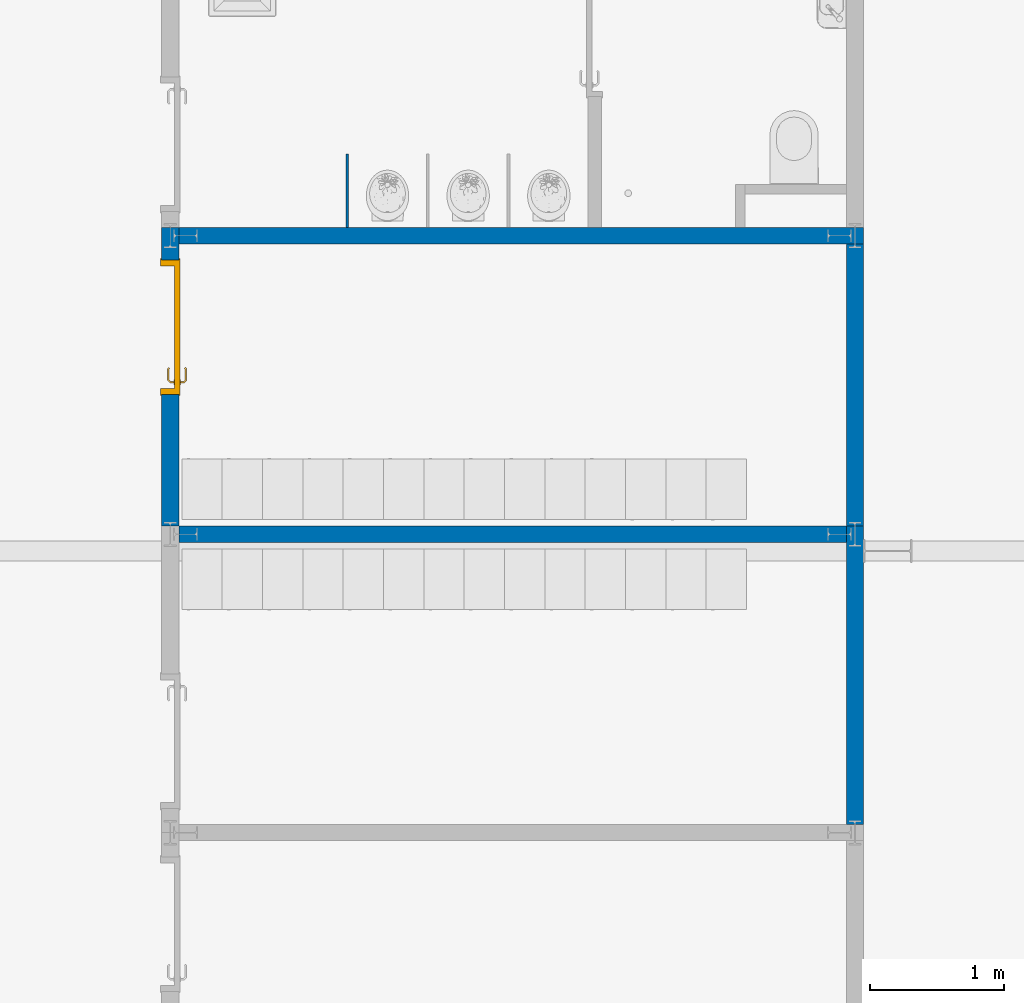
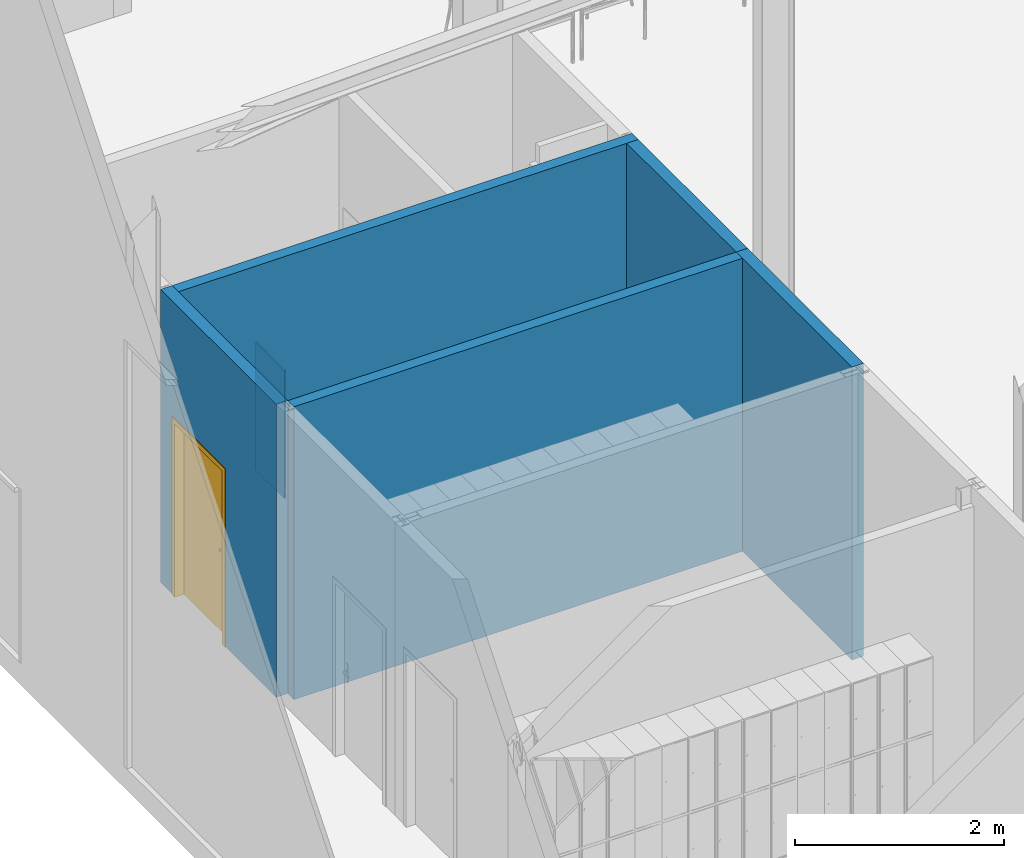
# One storey, part 50 of 137: 6 walls, 1 door, 1 opening.
"""IFC2X3 building model written with IfcOpenShell, lengths in centimetres."""

from ifc_helpers import new_model, entity, si_unit, converted_unit, derived_unit, direction, frame, frame_2d, origin, place, context, subcontext, project, spatial, rectangle, extrude, faceted_brep, source, transform, mapped, material, material_list, layer, layer_set, layer_usage, type_object, type_shapes, element, fill, save


model = new_model("IFC2X3")

# Units and contexts
model_context = context("Model", 3, precision=0.001, world=origin(), true_north=direction((6.12303176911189e-17, 1.0)))
body_context = subcontext(model_context, "Body", "Model", "MODEL_VIEW")
ifc_project = project(units=[si_unit("LENGTHUNIT", "METRE", prefix="CENTI"), si_unit("AREAUNIT", "SQUARE_METRE"), si_unit("VOLUMEUNIT", "CUBIC_METRE"), converted_unit("PLANEANGLEUNIT", "DEGREE", entity("IfcRatioMeasure", 0.0174532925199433), si_unit("PLANEANGLEUNIT", "RADIAN"), dimensions=[0, 0, 0, 0, 0, 0, 0]), si_unit("MASSUNIT", "GRAM", prefix="KILO"), si_unit("TIMEUNIT", "SECOND"), si_unit("FREQUENCYUNIT", "HERTZ"), si_unit("THERMODYNAMICTEMPERATUREUNIT", "DEGREE_CELSIUS"), derived_unit("THERMALTRANSMITTANCEUNIT", [(si_unit("MASSUNIT", "GRAM", prefix="KILO"), 1), (si_unit("THERMODYNAMICTEMPERATUREUNIT", "KELVIN"), -1), (si_unit("TIMEUNIT", "SECOND"), -3)]), derived_unit("VOLUMETRICFLOWRATEUNIT", [(si_unit("LENGTHUNIT", "METRE"), 3), (si_unit("TIMEUNIT", "SECOND"), -1)]), si_unit("ELECTRICCURRENTUNIT", "AMPERE"), si_unit("ELECTRICVOLTAGEUNIT", "VOLT"), si_unit("POWERUNIT", "WATT"), si_unit("FORCEUNIT", "NEWTON", prefix="KILO"), si_unit("ILLUMINANCEUNIT", "LUX"), si_unit("LUMINOUSFLUXUNIT", "LUMEN"), si_unit("LUMINOUSINTENSITYUNIT", "CANDELA"), derived_unit("USERDEFINED", [(si_unit("MASSUNIT", "GRAM", prefix="KILO"), -1), (si_unit("LENGTHUNIT", "METRE"), -2), (si_unit("TIMEUNIT", "SECOND"), 3), (si_unit("LUMINOUSFLUXUNIT", "LUMEN"), 1)]), derived_unit("LINEARVELOCITYUNIT", [(si_unit("LENGTHUNIT", "METRE"), 1), (si_unit("TIMEUNIT", "SECOND"), -1)]), si_unit("PRESSUREUNIT", "PASCAL"), derived_unit("USERDEFINED", [(si_unit("LENGTHUNIT", "METRE"), -2), (si_unit("MASSUNIT", "GRAM", prefix="KILO"), 1), (si_unit("TIMEUNIT", "SECOND"), -2)])], contexts=[model_context])

# Site, building, storey
site_placement = place(None, frame((8.62739174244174, -249.285249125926, 0.0)))
site = spatial("IfcSite", under=ifc_project, at=site_placement, Name="Default", CompositionType="ELEMENT")
building_placement = place(site_placement, origin())
building = spatial("IfcBuilding", under=site, at=building_placement, CompositionType="ELEMENT")
storey_placement = place(building_placement, origin())
storey = spatial("IfcBuildingStorey", under=building, at=storey_placement, Name="RDC", CompositionType="ELEMENT", Elevation=-8.82465566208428e-11)

# Wall, opening, door
ifc_material_1 = material(Name="Tôle/Doublage")
ifc_layer_1 = layer(ifc_material_1, 2.0)
ifc_material_2 = material(Name="Laine minérale")
ifc_layer_2 = layer(ifc_material_2, 9.5)
ifc_material_3 = material(Name="Plâtre_MU")
ifc_layer_3 = layer(ifc_material_3, 1.25)
ifc_layer_set_1 = layer_set([ifc_layer_1, ifc_layer_2, ifc_layer_3], Name="Mur de base:PLA 1.25 + ISO 9.5 + MET 4")
ifc_layer_usage_1 = layer_usage(ifc_layer_set_1, "AXIS2", "NEGATIVE", 6.375)
wall_type_1 = type_object("IfcWallType", Name="Mur de base:PLA 1.25 + ISO 9.5 + MET 4", PredefinedType="STANDARD", material=ifc_layer_set_1)
wall_1_placement = place(storey_placement, frame((1030.27982780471, 2380.48020806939, 0.0), z_axis=(0.0, 0.0, 1.0), x_axis=(0.0, 1.0, 0.0)))
wall_1 = element("IfcWallStandardCase", 1, at=wall_1_placement, inside=storey, type_object=wall_type_1, material=ifc_layer_usage_1, Name="Mur de base:PLA 1.25 + ISO 9.5 + MET 4", ObjectType="Mur de base:PLA 1.25 + ISO 9.5 + MET 4", context=body_context, shape_type="SweptSolid", body=[
    extrude(rectangle(XDim=221.999999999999, YDim=12.7500000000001, at=frame_2d((110.999999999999, 2.22044604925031e-15), x_axis=(-1.0, 0.0))), origin(), (0.0, 0.0, 1.0), 343.000000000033),
])
opening_placement = place(wall_1_placement, frame((198.0, 6.37500000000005, 0.0)))
opening = element("IfcOpeningElement", 2, at=opening_placement, cuts=wall_1, Name="Simple(R)_bois_mu:93 x 204 cm:1", ObjectType="Opening", context=body_context, shape_type="SweptSolid", body=[
    extrude(rectangle(XDim=207.499999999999, YDim=99.9999999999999, at=frame_2d((103.749999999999, 50.0), x_axis=(1.0, 0.0))), frame((0.0, 0.0, 0.0), z_axis=(0.0, -1.0, 0.0), x_axis=(0.0, 0.0, 1.0)), (0.0, 0.0, 1.0), 12.75),
])
ifc_material_4 = material(Name="Porte - Poignée")
ifc_material_5 = material(Name="Porte - Cadre")
ifc_material_6 = material(Name="Porte - Panneau")
ifc_material_list_1 = material_list([ifc_material_4, ifc_material_5, ifc_material_6])
ifc_material_list_2 = material_list([ifc_material_4, ifc_material_5, ifc_material_6])
door_style = type_object("IfcDoorStyle", Name="93 x 204 cm", ConstructionType="NOTDEFINED", OperationType="SINGLE_SWING_RIGHT", ParameterTakesPrecedence=False, Sizeable=False, material=ifc_material_list_2)
shared_shape = source(origin(), body_context, "Body", "Brep", [
    faceted_brep([(8.79747013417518, 3.69999999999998, 100.778044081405), (8.3999999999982, 3.69999999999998, 100.699999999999), (8.39999999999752, 3.69999999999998, 99.2999999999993), (8.79747013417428, 3.69999999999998, 99.2219559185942), (9.20252986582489, 3.69999999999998, 99.2219559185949), (9.60000000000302, 3.69999999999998, 99.3000000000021), (9.60000000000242, 3.69999999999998, 100.699999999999), (9.2025298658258, 3.69999999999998, 100.778044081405), (9.60000000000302, 5.94852045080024, 99.3000000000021), (9.60000000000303, 5.94852045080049, 100.699999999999), (9.20252986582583, 6.11315797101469, 100.778044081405), (10.5838906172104, 7.49451872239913, 100.778044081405), (10.4161093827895, 7.89957845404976, 100.778044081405), (8.79747013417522, 6.2809392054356, 100.778044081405), (19.5684749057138, 6.84673156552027, 100.778044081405), (19.8548953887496, 7.13315204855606, 100.778044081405), (19.0884689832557, 7.89957845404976, 100.778044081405), (18.9206877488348, 7.49451872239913, 100.778044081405), (8.39999999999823, 6.44557672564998, 100.699999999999), (8.3999999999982, 6.44557672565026, 99.2999999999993), (8.79747013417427, 6.28093920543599, 99.2219559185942), (10.4161093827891, 7.8995784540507, 99.2219559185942), (10.58389061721, 7.49451872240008, 99.2219559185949), (9.20252986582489, 6.11315797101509, 99.2219559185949), (19.8548953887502, 7.13315204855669, 99.2219559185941), (19.5684749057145, 6.84673156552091, 99.2219559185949), (18.9206877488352, 7.49451872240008, 99.2219559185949), (19.088468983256, 7.8995784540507, 99.2219559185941), (10.7485281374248, 7.09704858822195, 99.3000000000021), (10.748528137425, 7.09704858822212, 100.699999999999), (10.2514718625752, 8.29704858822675, 100.699999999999), (10.2514718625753, 8.29704858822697, 99.2999999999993), (14.7522904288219, 7.09704858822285, 99.3000000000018), (18.7560502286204, 7.09704858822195, 99.3000000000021), (18.7560502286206, 7.09704858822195, 100.699999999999), (14.7522891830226, 7.09704858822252, 100.699999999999), (14.7522891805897, 7.71249275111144, 100.787811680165), (19.25310650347, 8.29704858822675, 100.699999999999), (15.2600577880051, 8.29704858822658, 100.699999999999), (19.2531065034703, 8.29704858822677, 99.2999999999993), (14.2445206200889, 8.29704858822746, 99.2999999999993), (14.7522892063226, 7.71249274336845, 99.2121883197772), (19.2874210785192, 6.56567773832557, 99.3000000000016), (20.1359492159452, 7.41420587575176, 99.2999999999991), (20.135949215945, 7.4142058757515, 100.699999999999), (19.287421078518, 6.5656777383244, 100.699999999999)], [[[0, 1, 2, 3, 4, 5, 6, 7]], [[6, 5, 8, 9]], [[9, 10, 7, 6]], [[10, 11, 12, 13, 0, 7]], [[14, 15, 16, 17]], [[13, 18, 1, 0]], [[2, 1, 18, 19]], [[19, 20, 3, 2]], [[20, 21, 22, 23, 4, 3]], [[24, 25, 26, 27]], [[23, 8, 5, 4]], [[9, 8, 28, 29]], [[29, 11, 10, 9]], [[12, 30, 18, 13]], [[19, 18, 30, 31]], [[31, 21, 20, 19]], [[22, 28, 8, 23]], [[29, 28, 32, 33, 34, 35]], [[11, 35, 36]], [[16, 37, 38]], [[30, 12, 38]], [[38, 12, 36]], [[36, 35, 17]], [[17, 16, 36]], [[35, 11, 29]], [[34, 17, 35]], [[11, 36, 12]], [[38, 36, 16]], [[31, 30, 38, 37, 39, 40]], [[40, 41, 21]], [[41, 40, 27]], [[21, 31, 40]], [[39, 27, 40]], [[41, 32, 22]], [[22, 21, 41]], [[26, 32, 41]], [[28, 22, 32]], [[32, 26, 33]], [[26, 41, 27]], [[42, 25, 24, 43, 44, 15, 14, 45]], [[34, 33, 42, 45]], [[45, 14, 17, 34]], [[15, 44, 37, 16]], [[39, 37, 44, 43]], [[43, 24, 27, 39]], [[25, 42, 33, 26]]]),
    faceted_brep([(8.79747013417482, -1.30000000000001, 100.778044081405), (9.20252986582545, -1.30000000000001, 100.778044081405), (9.6000000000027, -1.30000000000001, 100.699999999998), (9.60000000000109, -1.30000000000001, 99.3000000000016), (9.20252986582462, -1.30000000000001, 99.2219559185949), (8.79747013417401, -1.30000000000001, 99.2219559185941), (8.39999999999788, -1.30000000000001, 99.2999999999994), (8.39999999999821, -1.30000000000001, 100.699999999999), (8.39999999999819, -4.06509507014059, 100.699999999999), (8.7974701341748, -3.90045754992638, 100.778044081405), (10.402358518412, -5.50534593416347, 100.778044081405), (10.5701397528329, -5.10028620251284, 100.778044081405), (9.20252986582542, -3.73267631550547, 100.778044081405), (19.852181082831, -4.73891952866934, 100.778044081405), (19.5657605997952, -4.4524990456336, 100.778044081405), (18.9179734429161, -5.10028620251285, 100.778044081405), (19.085754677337, -5.50534593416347, 100.778044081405), (9.60000000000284, -3.56803879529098, 100.699999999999), (9.6000000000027, -3.56803879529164, 99.3000000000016), (9.20252986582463, -3.7326763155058, 99.2219559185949), (10.5701397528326, -5.10028620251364, 99.2219559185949), (10.4023585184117, -5.50534593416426, 99.2219559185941), (8.79747013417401, -3.9004575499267, 99.2219559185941), (19.5657605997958, -4.45249904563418, 99.2219559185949), (19.8521810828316, -4.73891952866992, 99.2219559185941), (19.0857546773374, -5.50534593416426, 99.2219559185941), (18.9179734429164, -5.10028620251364, 99.2219559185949), (8.39999999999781, -4.06509507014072, 99.2999999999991), (10.2377209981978, -5.90281606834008, 100.699999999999), (10.7347772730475, -4.70281606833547, 100.699999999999), (10.7347772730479, -4.70281606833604, 99.3000000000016), (10.2377209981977, -5.90281606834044, 99.2999999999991), (14.2307697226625, -5.90281606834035, 100.699999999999), (14.7440566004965, -5.31828027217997, 100.787811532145), (19.2503921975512, -5.90281606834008, 100.699999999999), (14.7440565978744, -4.70281606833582, 100.699999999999), (18.7533359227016, -4.70281606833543, 100.699999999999), (18.7533359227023, -4.70281606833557, 99.3000000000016), (14.7440563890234, -4.70281606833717, 99.3000000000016), (14.744056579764, -5.31828027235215, 99.2121884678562), (19.2503921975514, -5.90281606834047, 99.2999999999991), (15.2573433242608, -5.90281606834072, 99.2999999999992), (19.2847067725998, -4.1714452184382, 100.699999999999), (20.1332349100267, -5.01997335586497, 100.699999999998), (20.1332349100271, -5.01997335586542, 99.2999999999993), (19.2847067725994, -4.17144521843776, 99.3000000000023)], [[[0, 1, 2, 3, 4, 5, 6, 7]], [[8, 9, 0, 7]], [[9, 10, 11, 12, 1, 0]], [[13, 14, 15, 16]], [[12, 17, 2, 1]], [[3, 2, 17, 18]], [[18, 19, 4, 3]], [[19, 20, 21, 22, 5, 4]], [[23, 24, 25, 26]], [[22, 27, 6, 5]], [[7, 6, 27, 8]], [[28, 10, 9, 8]], [[11, 29, 17, 12]], [[18, 17, 29, 30]], [[30, 20, 19, 18]], [[21, 31, 27, 22]], [[8, 27, 31, 28]], [[32, 33, 10]], [[33, 32, 16]], [[10, 28, 32]], [[34, 16, 32]], [[33, 35, 11]], [[11, 10, 33]], [[15, 35, 33]], [[29, 11, 35]], [[35, 15, 36]], [[15, 33, 16]], [[30, 29, 35, 36, 37, 38]], [[20, 38, 39]], [[25, 40, 41]], [[31, 21, 41]], [[41, 21, 39]], [[39, 38, 26]], [[26, 25, 39]], [[38, 20, 30]], [[37, 26, 38]], [[20, 39, 21]], [[41, 39, 25]], [[28, 31, 41, 40, 34, 32]], [[42, 14, 13, 43, 44, 24, 23, 45]], [[43, 13, 16, 34]], [[14, 42, 36, 15]], [[37, 36, 42, 45]], [[45, 23, 26, 37]], [[24, 44, 40, 25]], [[34, 40, 44, 43]]]),
    faceted_brep([(10.03527618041, 3.19999999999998, 86.6003983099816), (11.0, 3.19999999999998, 87.0), (11.0, 3.19999999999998, 108.0), (10.03527618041, 3.19999999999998, 108.399601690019), (9.0, 3.19999999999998, 108.535898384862), (7.96472381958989, 3.19999999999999, 108.399601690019), (7.0, 3.19999999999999, 108.0), (7.0, 3.19999999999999, 87.0), (7.96472381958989, 3.19999999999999, 86.6003983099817), (9.0, 3.19999999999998, 86.4641016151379), (10.03527618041, 3.69999999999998, 108.399601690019), (11.0, 3.69999999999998, 108.0), (11.0, 3.69999999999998, 87.0), (10.03527618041, 3.69999999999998, 86.6003983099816), (9.0, 3.69999999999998, 86.4641016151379), (7.96472381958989, 3.69999999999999, 86.6003983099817), (7.0, 3.69999999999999, 87.0), (7.0, 3.69999999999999, 108.0), (7.96472381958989, 3.69999999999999, 108.399601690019), (9.0, 3.69999999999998, 108.535898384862)], [[[0, 1, 2, 3, 4, 5, 6, 7, 8, 9]], [[10, 11, 12, 13, 14, 15, 16, 17, 18, 19]], [[11, 10, 3, 2]], [[3, 10, 19, 4]], [[19, 18, 5, 4]], [[18, 17, 6, 5]], [[7, 6, 17, 16]], [[16, 15, 8, 7]], [[8, 15, 14, 9]], [[14, 13, 0, 9]], [[13, 12, 1, 0]], [[2, 1, 12, 11]]]),
    faceted_brep([(10.03527618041, -1.30000000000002, 86.6003983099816), (11.0, -1.30000000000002, 87.0), (11.0, -1.30000000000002, 108.0), (10.03527618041, -1.30000000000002, 108.399601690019), (9.0, -1.30000000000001, 108.535898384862), (7.9647238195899, -1.30000000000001, 108.399601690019), (7.0, -1.30000000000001, 108.0), (7.0, -1.30000000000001, 87.0), (7.96472381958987, -1.30000000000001, 86.6003983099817), (9.0, -1.30000000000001, 86.4641016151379), (10.03527618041, -0.800000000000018, 108.399601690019), (11.0, -0.80000000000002, 108.0), (11.0, -0.80000000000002, 87.0), (10.03527618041, -0.800000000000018, 86.6003983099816), (9.0, -0.800000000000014, 86.4641016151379), (7.96472381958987, -0.800000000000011, 86.6003983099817), (7.0, -0.800000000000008, 87.0), (7.0, -0.800000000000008, 108.0), (7.9647238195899, -0.800000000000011, 108.399601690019), (9.0, -0.800000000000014, 108.535898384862)], [[[0, 1, 2, 3, 4, 5, 6, 7, 8, 9]], [[10, 11, 12, 13, 14, 15, 16, 17, 18, 19]], [[16, 15, 8, 7]], [[8, 15, 14, 9]], [[14, 13, 0, 9]], [[13, 12, 1, 0]], [[2, 1, 12, 11]], [[11, 10, 3, 2]], [[3, 10, 19, 4]], [[19, 18, 5, 4]], [[18, 17, 6, 5]], [[7, 6, 17, 16]]]),
    faceted_brep([(0.0, 0.0, 0.0), (0.0, 12.750000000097, 0.0), (-1.0, 12.750000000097, 0.0), (-1.0, 13.5500000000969, 0.0), (4.49999999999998, 13.5500000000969, 0.0), (4.49999999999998, 3.2, 0.0), (3.49999999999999, 3.2, 0.0), (3.49999999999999, -0.799999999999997, 0.0), (-1.0, -0.799999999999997, 0.0), (-1.0, 0.0, 0.0), (0.0, 0.0, 207.499999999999), (0.0, 12.750000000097, 207.499999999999), (100.0, 12.750000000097, 207.499999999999), (100.0, 12.750000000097, 0.0), (101.0, 12.750000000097, 0.0), (101.0, 12.750000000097, 208.499999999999), (-1.0, 12.750000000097, 208.499999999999), (-1.0, 13.5500000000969, 208.499999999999), (101.0, 13.5500000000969, 208.499999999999), (101.0, 13.5500000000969, 0.0), (95.5, 13.5500000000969, 0.0), (95.5, 13.5500000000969, 203.0), (4.49999999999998, 13.5500000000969, 203.0), (4.49999999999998, 3.2, 203.0), (95.5, 3.2, 203.0), (95.5, 3.2, 0.0), (96.5, 3.2, 0.0), (96.5, 3.2, 204.0), (3.49999999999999, 3.2, 204.0), (3.49999999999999, -0.799999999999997, 204.0), (96.5, -0.799999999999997, 204.0), (96.5, -0.799999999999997, 0.0), (101.0, -0.799999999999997, 0.0), (101.0, -0.799999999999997, 208.499999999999), (-1.0, -0.799999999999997, 208.499999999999), (-1.0, 0.0, 208.499999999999), (101.0, 0.0, 208.499999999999), (101.0, 0.0, 0.0), (100.0, 0.0, 0.0), (100.0, 0.0, 207.499999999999)], [[[0, 1, 2, 3, 4, 5, 6, 7, 8, 9]], [[1, 0, 10, 11]], [[2, 1, 11, 12, 13, 14, 15, 16]], [[3, 2, 16, 17]], [[4, 3, 17, 18, 19, 20, 21, 22]], [[5, 4, 22, 23]], [[6, 5, 23, 24, 25, 26, 27, 28]], [[7, 6, 28, 29]], [[8, 7, 29, 30, 31, 32, 33, 34]], [[9, 8, 34, 35]], [[0, 9, 35, 36, 37, 38, 39, 10]], [[12, 39, 38, 13]], [[38, 37, 32, 31, 26, 25, 20, 19, 14, 13]], [[18, 15, 14, 19]], [[24, 21, 20, 25]], [[30, 27, 26, 31]], [[36, 33, 32, 37]], [[11, 10, 39, 12]], [[17, 16, 15, 18]], [[23, 22, 21, 24]], [[29, 28, 27, 30]], [[35, 34, 33, 36]]]),
    faceted_brep([(3.49999999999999, -0.799999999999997, 204.0), (3.49999999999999, -0.799999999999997, 0.0), (96.5, -0.799999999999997, 0.0), (96.5, -0.799999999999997, 204.0), (3.49999999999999, 3.2, 204.0), (96.5, 3.2, 204.0), (96.5, 3.2, 0.0), (3.49999999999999, 3.2, 0.0)], [[[0, 1, 2, 3]], [[4, 5, 6, 7]], [[1, 0, 4, 7]], [[2, 1, 7, 6]], [[3, 2, 6, 5]], [[0, 3, 5, 4]]]),
])
type_shapes(door_style, [shared_shape])
door_placement = place(opening_placement, frame((-100.0, -12.7500000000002, 0.0)))
door = element("IfcDoor", 3, at=door_placement, inside=storey, type_object=door_style, material=ifc_material_list_1, Name="Simple(R)_bois_mu:93 x 204 cm", ObjectType="93 x 204 cm", OverallHeight=207.499999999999, OverallWidth=99.9999999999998, context=body_context, shape_type="MappedRepresentation", body=[
    mapped(shared_shape, transform((0.0, 0.0, 0.0), scale=1.0)),
])
fill(opening, door)

# Walls
ifc_layer_usage_2 = layer_usage(ifc_layer_set_1, "AXIS2", "NEGATIVE", 6.375)
wall_2_placement = place(storey_placement, frame((1539.52982780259, 2590.48020806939, 0.0), z_axis=(0.0, 0.0, 1.0), x_axis=(0.0, -1.0, 0.0)))
element("IfcWallStandardCase", 4, at=wall_2_placement, inside=storey, type_object=wall_type_1, material=ifc_layer_usage_2, Name="Mur de base:PLA 1.25 + ISO 9.5 + MET 4", ObjectType="Mur de base:PLA 1.25 + ISO 9.5 + MET 4", context=body_context, shape_type="SweptSolid", body=[
    extrude(rectangle(XDim=209.999999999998, YDim=12.7500000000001, at=frame_2d((104.999999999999, -9.76996261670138e-15), x_axis=(-1.0, 0.0))), origin(), (0.0, 0.0, 1.0), 343.000000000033),
])
ifc_layer_usage_3 = layer_usage(ifc_layer_set_1, "AXIS2", "POSITIVE", -6.375)
wall_3_placement = place(storey_placement, frame((1539.52982780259, 2158.48020806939, 0.0), z_axis=(0.0, 0.0, 1.0), x_axis=(0.0, 1.0, 0.0)))
element("IfcWallStandardCase", 5, at=wall_3_placement, inside=storey, type_object=wall_type_1, material=ifc_layer_usage_3, Name="Mur de base:PLA 1.25 + ISO 9.5 + MET 4", ObjectType="Mur de base:PLA 1.25 + ISO 9.5 + MET 4", context=body_context, shape_type="SweptSolid", body=[
    extrude(rectangle(XDim=222.000000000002, YDim=12.7500000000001, at=frame_2d((111.000000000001, -6.43929354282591e-14), x_axis=(-1.0, 0.0))), origin(), (0.0, 0.0, 1.0), 343.000000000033),
])
ifc_layer_4 = layer(ifc_material_3, 1.25)
ifc_layer_5 = layer(ifc_material_2, 9.5)
ifc_layer_6 = layer(ifc_material_3, 1.25)
ifc_layer_set_2 = layer_set([ifc_layer_4, ifc_layer_5, ifc_layer_6], Name="Mur de base:ISO 10 + MET 2")
ifc_layer_usage_4 = layer_usage(ifc_layer_set_2, "AXIS2", "NEGATIVE", 6.0)
wall_type_2 = type_object("IfcWallType", Name="Mur de base:ISO 10 + MET 2", PredefinedType="STANDARD", material=ifc_layer_set_2)
wall_4_placement = place(storey_placement, frame((1036.65482780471, 2596.48020806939, 0.0)))
element("IfcWallStandardCase", 6, at=wall_4_placement, inside=storey, type_object=wall_type_2, material=ifc_layer_usage_4, Name="Mur de base:ISO 10 + MET 2", ObjectType="Mur de base:ISO 10 + MET 2", context=body_context, shape_type="SweptSolid", body=[
    extrude(rectangle(XDim=509.249999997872, YDim=11.9999999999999, at=frame_2d((254.624999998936, -2.08721928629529e-14), x_axis=(-1.0, 0.0))), origin(), (0.0, 0.0, 1.0), 343.000000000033),
])
ifc_layer_usage_5 = layer_usage(ifc_layer_set_2, "AXIS2", "POSITIVE", -6.0)
wall_5_placement = place(storey_placement, frame((1533.15482780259, 2374.48020806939, 0.0), z_axis=(0.0, 0.0, 1.0), x_axis=(-1.0, 0.0, 0.0)))
element("IfcWallStandardCase", 7, at=wall_5_placement, inside=storey, type_object=wall_type_2, material=ifc_layer_usage_5, Name="Mur de base:ISO 10 + MET 2", ObjectType="Mur de base:ISO 10 + MET 2", context=body_context, shape_type="SweptSolid", body=[
    extrude(rectangle(XDim=496.499999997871, YDim=11.9999999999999, at=frame_2d((248.249999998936, 5.6843418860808e-14), x_axis=(-1.0, 0.0))), origin(), (0.0, 0.0, 1.0), 343.000000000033),
])
ifc_material_7 = material(Name="Stratifié, ivoire, mat")
ifc_layer_7 = layer(ifc_material_7, 2.0)
ifc_layer_set_3 = layer_set([ifc_layer_7], Name="Mur de base:STRAT 2")
ifc_layer_usage_6 = layer_usage(ifc_layer_set_3, "AXIS2", "NEGATIVE", 1.0)
wall_type_3 = type_object("IfcWallType", Name="Mur de base:STRAT 2", PredefinedType="STANDARD", material=ifc_layer_set_3)
wall_6_placement = place(storey_placement, frame((1161.90482780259, 2602.48020806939, 50.0), z_axis=(0.0, 0.0, 1.0), x_axis=(0.0, 1.0, 0.0)))
element("IfcWallStandardCase", 8, at=wall_6_placement, inside=storey, type_object=wall_type_3, material=ifc_layer_usage_6, Name="Mur de base:STRAT 2", ObjectType="Mur de base:STRAT 2", context=body_context, shape_type="SweptSolid", body=[
    extrude(rectangle(XDim=54.7388524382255, YDim=1.99999999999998, at=frame_2d((27.3694262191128, 4.03566069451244e-14), x_axis=(-1.0, 0.0))), origin(), (0.0, 0.0, 1.0), 150.0),
])

save(model, "model.ifc")
